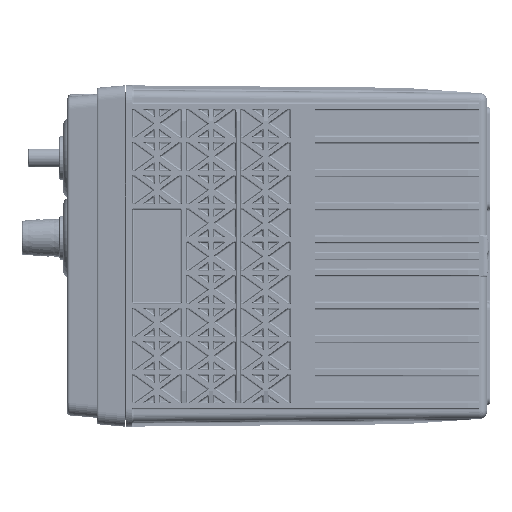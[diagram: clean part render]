
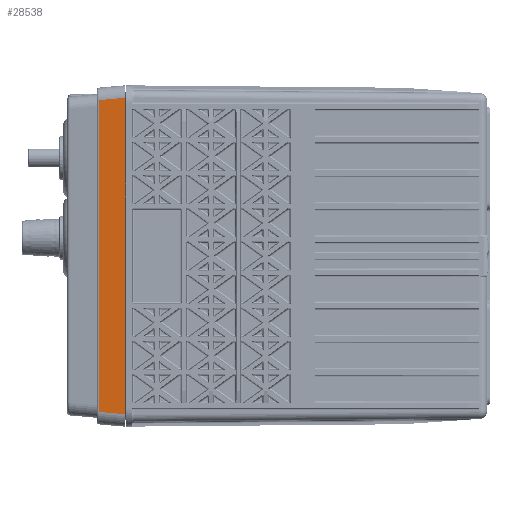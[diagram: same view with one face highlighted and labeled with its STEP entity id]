
A CAD part, left-side view. The second image highlights one B-rep face of the part: STEP entity #28538.
In plain terms, the highlighted planar face has unit normal (-0.996, 0.087, 0).
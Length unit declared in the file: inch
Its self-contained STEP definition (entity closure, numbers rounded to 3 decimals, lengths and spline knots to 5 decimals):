
#28538 = ADVANCED_FACE ( 'NONE', ( #301177 ), #216906, .T. ) ;
#34639 = EDGE_CURVE ( 'NONE', #201756, #105054, #78436, .T. ) ;
#36185 = VECTOR ( 'NONE', #236367, 39.37008 ) ;
#57783 = EDGE_CURVE ( 'NONE', #359312, #201756, #389373, .T. ) ;
#72227 = VECTOR ( 'NONE', #216802, 39.37008 ) ;
#78436 = LINE ( 'NONE', #178290, #164559 ) ;
#105054 = VERTEX_POINT ( 'NONE', #248786 ) ;
#139677 = DIRECTION ( 'NONE',  ( 0., 0., -1. ) ) ;
#142834 = AXIS2_PLACEMENT_3D ( 'NONE', #341270, #155731, #345302 ) ;
#154256 = ORIENTED_EDGE ( 'NONE', *, *, #34639, .T. ) ;
#155731 = DIRECTION ( 'NONE',  ( -0.996, 0.087, 0. ) ) ;
#157605 = CARTESIAN_POINT ( 'NONE',  ( -6.37644, 1.12801, -3.04739 ) ) ;
#160347 = CARTESIAN_POINT ( 'NONE',  ( -6.47399, 0.013, 3.345 ) ) ;
#164559 = VECTOR ( 'NONE', #139677, 39.37008 ) ;
#178290 = CARTESIAN_POINT ( 'NONE',  ( -6.42819, 0.53649, -3.09595 ) ) ;
#200686 = ORIENTED_EDGE ( 'NONE', *, *, #57783, .T. ) ;
#201756 = VERTEX_POINT ( 'NONE', #288950 ) ;
#213835 = ORIENTED_EDGE ( 'NONE', *, *, #389512, .T. ) ;
#216802 = DIRECTION ( 'NONE',  ( -0.087, -0.992, -0.087 ) ) ;
#216906 = PLANE ( 'NONE',  #142834 ) ;
#224826 = CARTESIAN_POINT ( 'NONE',  ( -6.47399, 0.013, -3.14494 ) ) ;
#235832 = LINE ( 'NONE', #157605, #72227 ) ;
#236367 = DIRECTION ( 'NONE',  ( 0.087, 0.992, -0.087 ) ) ;
#248786 = CARTESIAN_POINT ( 'NONE',  ( -6.42819, 0.53649, -3.09915 ) ) ;
#288950 = CARTESIAN_POINT ( 'NONE',  ( -6.42819, 0.53649, 3.09915 ) ) ;
#299232 = CARTESIAN_POINT ( 'NONE',  ( -6.47399, 0.013, 3.14494 ) ) ;
#301177 = FACE_OUTER_BOUND ( 'NONE', #348759, .T. ) ;
#328162 = CARTESIAN_POINT ( 'NONE',  ( -6.42688, 0.55154, 3.09783 ) ) ;
#341270 = CARTESIAN_POINT ( 'NONE',  ( -6.425, 0.573, 3.345 ) ) ;
#343851 = ORIENTED_EDGE ( 'NONE', *, *, #375377, .T. ) ;
#345302 = DIRECTION ( 'NONE',  ( -0.087, -0.996, 0. ) ) ;
#347944 = LINE ( 'NONE', #160347, #364773 ) ;
#348759 = EDGE_LOOP ( 'NONE', ( #200686, #154256, #213835, #343851 ) ) ;
#356198 = VERTEX_POINT ( 'NONE', #224826 ) ;
#359312 = VERTEX_POINT ( 'NONE', #299232 ) ;
#364773 = VECTOR ( 'NONE', #380514, 39.37008 ) ;
#375377 = EDGE_CURVE ( 'NONE', #356198, #359312, #347944, .T. ) ;
#380514 = DIRECTION ( 'NONE',  ( 0., 0., 1. ) ) ;
#389373 = LINE ( 'NONE', #328162, #36185 ) ;
#389512 = EDGE_CURVE ( 'NONE', #105054, #356198, #235832, .T. ) ;
